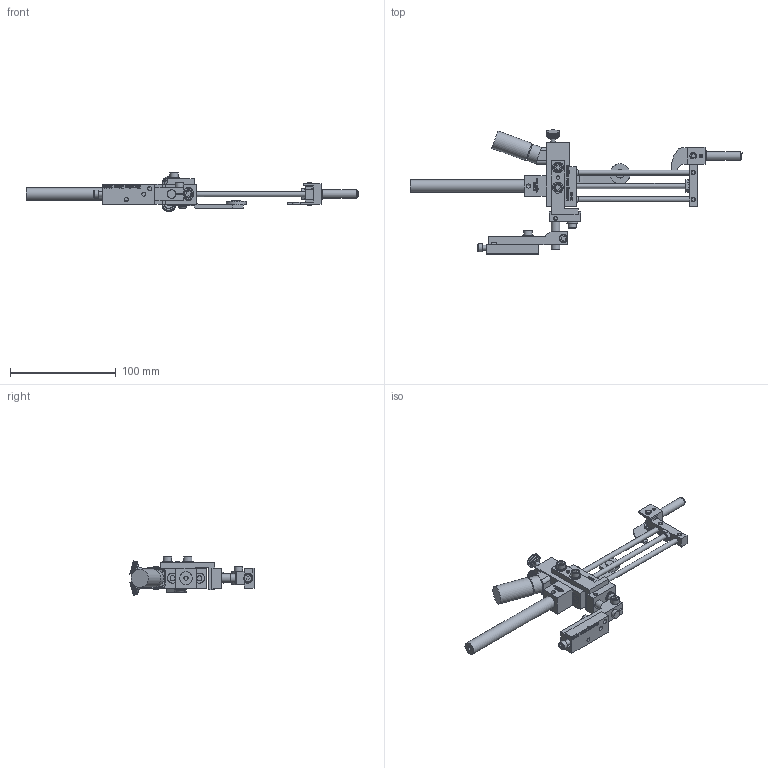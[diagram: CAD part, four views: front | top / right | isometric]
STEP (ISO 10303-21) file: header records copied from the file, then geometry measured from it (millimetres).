
FILE_DESCRIPTION((''),'2;1');
FILE_NAME('C:\Documents and Settings\Ron\My Documents\Inventor\Sprinter Drawing\Machines in Inventor\Model 44\Dot\1-fourth\Ext Hd 1in\Brkt\Ext\Model 44 Ext HD 1in .25 dia dot Ext w brkt.stp','2009-01-20T07:35:18',('Ron'),(''),'Autodesk Inventor 2008','Autodesk Inventor 2008','');
FILE_SCHEMA(('AUTOMOTIVE_DESIGN { 1 0 10303 214 1 1 1 1 }'));
Length unit declared in the file: inch
Products named in the file (1): Model 44 Ext HD 1in .25 dia dot Ext w brkt
Bounding box: 313.49 x 117.12 x 36.82 mm (x, y, z)
Volume: 111281.7 mm3; surface area: 55040.1 mm2
Topology: 381 solids, 381 shells, 6206 faces, 15405 edges, 9527 vertices
Faces by surface type: plane 4359, bspline 1321, cylinder 471, cone 51, torus 4
Full cylindrical faces by diameter (mm): 3.175 x4, 3.302 x1, 3.962 x1, 4.064 x7, 4.166 x1, 4.699 x1, 4.75 x4, 4.775 x1, 4.826 x7, 5.08 x1, 5.156 x4, 5.207 x2, 5.41 x2, 6.096 x1, 6.299 x2, 6.35 x1, 7.239 x1, 7.62 x1, 7.874 x1, 7.925 x7, 7.938 x1, 8.128 x1, 9.017 x1, 9.398 x1, 9.525 x2, 10.312 x4, 10.922 x1, 11.036 x1, 11.938 x2, 14.478 x1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
Entity records: 197660 total; most frequent: CARTESIAN_POINT 54209, ORIENTED_EDGE 30354, DIRECTION 23592, EDGE_CURVE 15177, VECTOR 11364, LINE 11364, VERTEX_POINT 9460, EDGE_LOOP 6769
